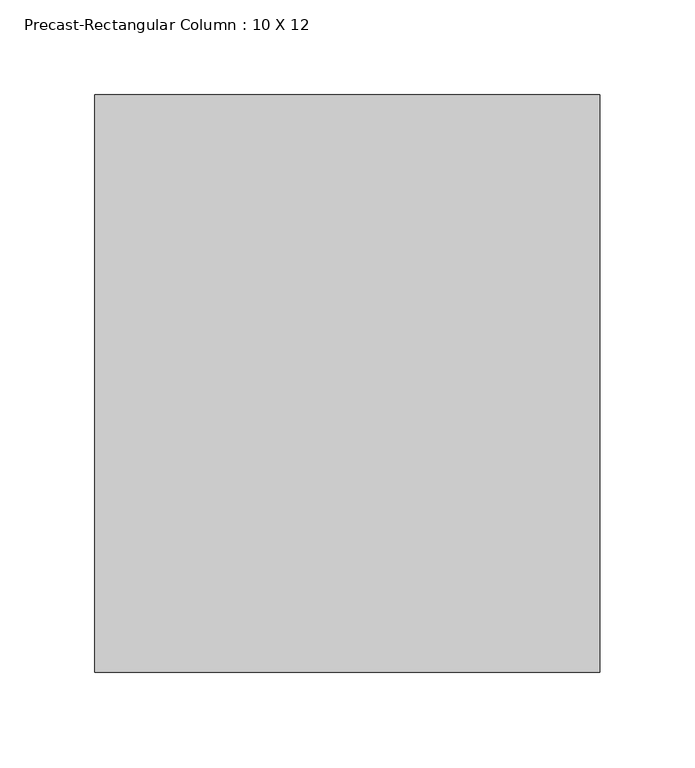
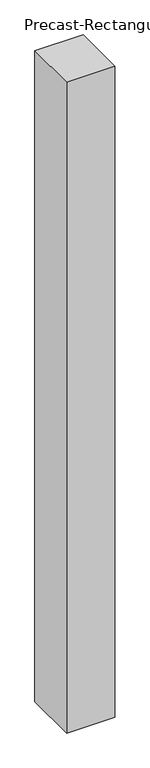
"""IFC4 building model written with IfcOpenShell, lengths in millimetres: column geometry, Precast-Rectangular Column : 10 X 12."""

from ifc_helpers import new_model, si_unit, origin, origin_with_axes, place, context, project, spatial, polyline, outline, extrude, source, transform, mapped, element, save


def precast_rectangular_column_10_x_12_6271d5be(model_context):
    return source(origin(), model_context, "Body", "SweptSolid", [
        extrude(outline(polyline([(133.35, 152.4), (133.35, -152.4), (-133.35, -152.4), (-133.35, 152.4), (133.35, 152.4)])), origin_with_axes(), (0.0, 0.0, 1.0), 3810.0),
    ])


if __name__ == "__main__":
    model = new_model("IFC4")
    model_context = context("Model", 3, world=origin())
    ifc_project = project(units=[si_unit("LENGTHUNIT", "METRE", prefix="MILLI")], contexts=[model_context])
    site = spatial("IfcSite", under=ifc_project)
    building = spatial("IfcBuilding", under=site)
    placement = place(None, origin())
    precast_rectangular_column_10_x_12_shape = precast_rectangular_column_10_x_12_6271d5be(model_context)
    element("IfcColumn", 1, ObjectType="Precast-Rectangular Column : 10 X 12", at=placement, inside=building, context=model_context, shape_type="MappedRepresentation", body=[
        mapped(precast_rectangular_column_10_x_12_shape, transform((0.0, 0.0, 0.0), x_axis=(1.0, 0.0, 0.0), y_axis=(0.0, 1.0, 0.0), z_axis=(0.0, 0.0, 1.0))),
    ])
    save(model, "model.ifc")
